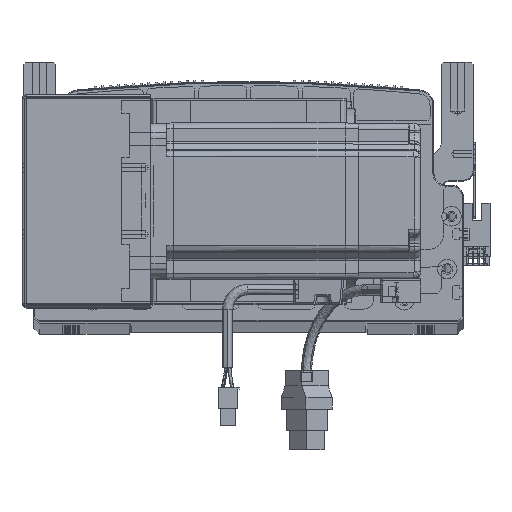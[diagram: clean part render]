
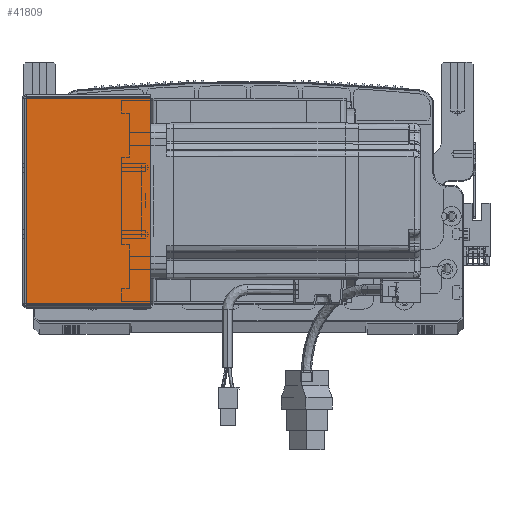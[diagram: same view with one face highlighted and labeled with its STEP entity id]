
A CAD part, top view. The second image highlights one B-rep face of the part: STEP entity #41809.
In plain terms, the highlighted planar face has unit normal (0, 0, 1) as drawn and (0, 0, -1) by its records, which use the part's own axes.
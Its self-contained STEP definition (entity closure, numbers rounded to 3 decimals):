
#2331 = CARTESIAN_POINT ( 'NONE',  ( 0.737, 0., -205.5 ) ) ;
#4876 = EDGE_CURVE ( 'NONE', #87262, #34022, #22542, .T. ) ;
#6556 = VERTEX_POINT ( 'NONE', #29283 ) ;
#7021 = VECTOR ( 'NONE', #14838, 1000. ) ;
#7772 = CARTESIAN_POINT ( 'NONE',  ( 0.737, 105.293, -205.5 ) ) ;
#9701 = EDGE_CURVE ( 'NONE', #87262, #6556, #54099, .T. ) ;
#10652 = CARTESIAN_POINT ( 'NONE',  ( 0., 105.293, -205.5 ) ) ;
#14236 = LINE ( 'NONE', #52440, #7021 ) ;
#14838 = DIRECTION ( 'NONE',  ( 1., 0., 0. ) ) ;
#17915 = DIRECTION ( 'NONE',  ( 0., -1., 0. ) ) ;
#22542 = LINE ( 'NONE', #2331, #53772 ) ;
#22633 = VERTEX_POINT ( 'NONE', #48218 ) ;
#25323 = DIRECTION ( 'NONE',  ( 1., 0., 0. ) ) ;
#29283 = CARTESIAN_POINT ( 'NONE',  ( 64.5, 105.293, -205.5 ) ) ;
#34022 = VERTEX_POINT ( 'NONE', #43609 ) ;
#36259 = ORIENTED_EDGE ( 'NONE', *, *, #9701, .T. ) ;
#40883 = DIRECTION ( 'NONE',  ( 0., -1., 0. ) ) ;
#41809 = ADVANCED_FACE ( 'NONE', ( #85365 ), #44002, .F. ) ;
#43609 = CARTESIAN_POINT ( 'NONE',  ( 0.737, 0.707, -205.5 ) ) ;
#43732 = AXIS2_PLACEMENT_3D ( 'NONE', #67852, #68186, #97739 ) ;
#44002 = PLANE ( 'NONE',  #43732 ) ;
#47838 = EDGE_CURVE ( 'NONE', #6556, #22633, #92310, .T. ) ;
#48218 = CARTESIAN_POINT ( 'NONE',  ( 64.5, 0.707, -205.5 ) ) ;
#49107 = CARTESIAN_POINT ( 'NONE',  ( 64.5, 0., -205.5 ) ) ;
#52440 = CARTESIAN_POINT ( 'NONE',  ( 0., 0.707, -205.5 ) ) ;
#53772 = VECTOR ( 'NONE', #40883, 1000. ) ;
#54099 = LINE ( 'NONE', #10652, #78107 ) ;
#67852 = CARTESIAN_POINT ( 'NONE',  ( 0., 0., -205.5 ) ) ;
#68186 = DIRECTION ( 'NONE',  ( 0., 0., 1. ) ) ;
#77863 = EDGE_CURVE ( 'NONE', #34022, #22633, #14236, .T. ) ;
#78107 = VECTOR ( 'NONE', #25323, 1000. ) ;
#79066 = ORIENTED_EDGE ( 'NONE', *, *, #4876, .F. ) ;
#85365 = FACE_OUTER_BOUND ( 'NONE', #86558, .T. ) ;
#86558 = EDGE_LOOP ( 'NONE', ( #79066, #36259, #90486, #90747 ) ) ;
#87262 = VERTEX_POINT ( 'NONE', #7772 ) ;
#90486 = ORIENTED_EDGE ( 'NONE', *, *, #47838, .T. ) ;
#90747 = ORIENTED_EDGE ( 'NONE', *, *, #77863, .F. ) ;
#92310 = LINE ( 'NONE', #49107, #97127 ) ;
#97127 = VECTOR ( 'NONE', #17915, 1000. ) ;
#97739 = DIRECTION ( 'NONE',  ( 1., 0., 0. ) ) ;
